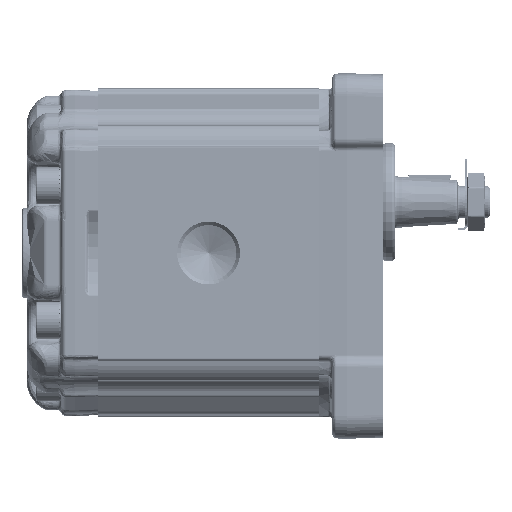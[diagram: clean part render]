
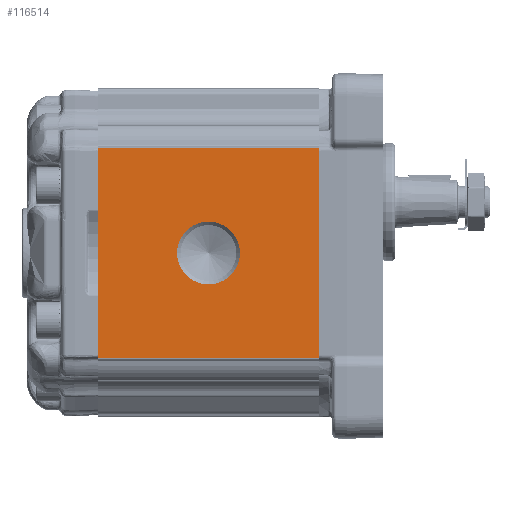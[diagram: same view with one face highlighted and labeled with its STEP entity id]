
A CAD part, left-side view. The second image highlights one B-rep face of the part: STEP entity #116514.
In plain terms, the highlighted planar face has unit normal (-1, 0, 0) as drawn and (1, 0, 0) by its records, which use the part's own axes.
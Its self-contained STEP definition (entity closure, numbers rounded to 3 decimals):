
#6817=PLANE('',#123164);
#9636=LINE('',#179253,#14495);
#9647=LINE('',#179337,#14506);
#9693=LINE('',#179487,#14552);
#9694=LINE('',#179488,#14553);
#14495=VECTOR('',#137061,1000.);
#14506=VECTOR('',#137136,1000.);
#14552=VECTOR('',#137298,1000.);
#14553=VECTOR('',#137299,1000.);
#29597=ORIENTED_EDGE('',*,*,#50540,.T.);
#29598=ORIENTED_EDGE('',*,*,#50419,.F.);
#29599=ORIENTED_EDGE('',*,*,#50541,.T.);
#29600=ORIENTED_EDGE('',*,*,#50461,.F.);
#29601=ORIENTED_EDGE('',*,*,#50542,.T.);
#50419=EDGE_CURVE('',#61757,#61758,#9636,.T.);
#50461=EDGE_CURVE('',#61799,#61800,#9647,.T.);
#50540=EDGE_CURVE('',#61844,#61844,#68627,.F.);
#50541=EDGE_CURVE('',#61757,#61800,#9693,.F.);
#50542=EDGE_CURVE('',#61799,#61758,#9694,.F.);
#61757=VERTEX_POINT('',#179252);
#61758=VERTEX_POINT('',#179254);
#61799=VERTEX_POINT('',#179338);
#61800=VERTEX_POINT('',#179339);
#61844=VERTEX_POINT('',#179486);
#68627=CIRCLE('',#123165,13.559);
#72855=EDGE_LOOP('',(#29597));
#72856=EDGE_LOOP('',(#29598,#29599,#29600,#29601));
#77875=FACE_BOUND('',#72855,.T.);
#77876=FACE_BOUND('',#72856,.T.);
#116514=ADVANCED_FACE('',(#77875,#77876),#6817,.T.);
#123164=AXIS2_PLACEMENT_3D('',#179484,#137294,#137295);
#123165=AXIS2_PLACEMENT_3D('',#179485,#137296,#137297);
#137061=DIRECTION('',(0.,0.,-1.));
#137136=DIRECTION('',(0.,0.,1.));
#137294=DIRECTION('',(1.,0.,0.));
#137295=DIRECTION('',(0.,0.,1.));
#137296=DIRECTION('',(1.,0.,0.));
#137297=DIRECTION('',(0.,0.,1.));
#137298=DIRECTION('',(0.,1.,0.));
#137299=DIRECTION('',(0.,-1.,0.));
#179252=CARTESIAN_POINT('',(57.5,95.,45.5));
#179253=CARTESIAN_POINT('',(57.5,95.,91.388));
#179254=CARTESIAN_POINT('',(57.5,95.,-45.5));
#179337=CARTESIAN_POINT('',(57.5,0.,-44.978));
#179338=CARTESIAN_POINT('',(57.5,0.,-45.5));
#179339=CARTESIAN_POINT('',(57.5,0.,45.5));
#179484=CARTESIAN_POINT('',(57.5,-136.868,91.388));
#179485=CARTESIAN_POINT('',(57.5,47.5,0.));
#179486=CARTESIAN_POINT('',(57.5,47.5,13.559));
#179487=CARTESIAN_POINT('',(57.5,-136.868,45.5));
#179488=CARTESIAN_POINT('',(57.5,-136.868,-45.5));
